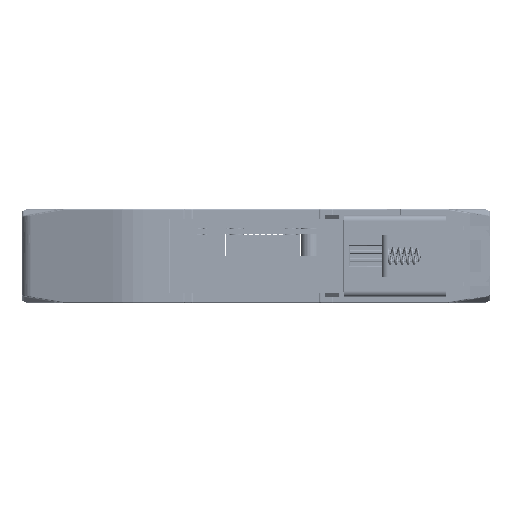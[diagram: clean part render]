
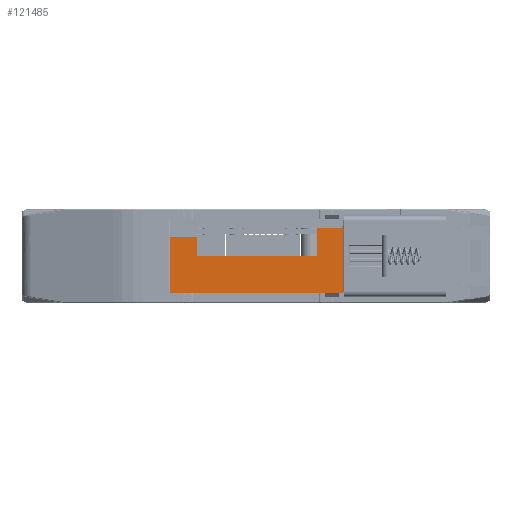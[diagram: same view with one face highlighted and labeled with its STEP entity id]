
A CAD part, front view. The second image highlights one B-rep face of the part: STEP entity #121485.
In plain terms, the highlighted planar face has unit normal (0, -1, 0).
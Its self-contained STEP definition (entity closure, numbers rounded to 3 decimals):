
#11087=DIRECTION('',(-1.,0.,0.));
#11088=VECTOR('',#11087,5.9);
#11089=CARTESIAN_POINT('',(-12.5,-83.9,-4.8));
#11090=LINE('',#11089,#11088);
#36700=DIRECTION('',(0.,0.,-1.));
#36701=VECTOR('',#36700,15.65);
#36702=CARTESIAN_POINT('',(18.6,-83.9,-1.15));
#36703=LINE('',#36702,#36701);
#36704=DIRECTION('',(0.,0.,-1.));
#36705=VECTOR('',#36704,12.);
#36706=CARTESIAN_POINT('',(-18.4,-83.9,-4.8));
#36707=LINE('',#36706,#36705);
#36708=DIRECTION('',(0.,0.,-1.));
#36709=VECTOR('',#36708,4.);
#36710=CARTESIAN_POINT('',(-12.5,-83.9,-4.8));
#36711=LINE('',#36710,#36709);
#36712=DIRECTION('',(1.,0.,0.));
#36713=VECTOR('',#36712,25.5);
#36714=CARTESIAN_POINT('',(-12.5,-83.9,-8.8));
#36715=LINE('',#36714,#36713);
#36716=DIRECTION('',(0.,0.,1.));
#36717=VECTOR('',#36716,5.95);
#36718=CARTESIAN_POINT('',(13.,-83.9,-8.8));
#36719=LINE('',#36718,#36717);
#36724=DIRECTION('',(1.,0.,0.));
#36725=VECTOR('',#36724,5.451);
#36726=CARTESIAN_POINT('',(13.,-83.9,-2.85));
#36727=LINE('',#36726,#36725);
#36736=DIRECTION('',(-0.087,0.,-0.996));
#36737=VECTOR('',#36736,1.706);
#36738=CARTESIAN_POINT('',(18.6,-83.9,-1.15));
#36739=LINE('',#36738,#36737);
#37860=DIRECTION('',(-1.,0.,0.));
#37861=VECTOR('',#37860,37.);
#37862=CARTESIAN_POINT('',(18.6,-83.9,-16.8));
#37863=LINE('',#37862,#37861);
#67320=CARTESIAN_POINT('',(18.6,-83.9,-16.8));
#67321=VERTEX_POINT('',#67320);
#67492=CARTESIAN_POINT('',(-12.5,-83.9,-4.8));
#67493=VERTEX_POINT('',#67492);
#67494=CARTESIAN_POINT('',(-12.5,-83.9,-8.8));
#67495=CARTESIAN_POINT('',(13.,-83.9,-8.8));
#67496=VERTEX_POINT('',#67494);
#67497=VERTEX_POINT('',#67495);
#75019=CARTESIAN_POINT('',(18.6,-83.9,-1.15));
#75020=VERTEX_POINT('',#75019);
#75040=CARTESIAN_POINT('',(13.,-83.9,-2.85));
#75042=VERTEX_POINT('',#75040);
#75043=CARTESIAN_POINT('',(18.451,-83.9,-2.85));
#75045=VERTEX_POINT('',#75043);
#75047=CARTESIAN_POINT('',(-18.4,-83.9,-16.8));
#75049=VERTEX_POINT('',#75047);
#75053=CARTESIAN_POINT('',(-18.4,-83.9,-4.8));
#75054=VERTEX_POINT('',#75053);
#121462=CARTESIAN_POINT('',(18.6,-83.9,-4.8));
#121463=DIRECTION('',(0.,1.,0.));
#121464=DIRECTION('',(-1.,0.,0.));
#121465=AXIS2_PLACEMENT_3D('',#121462,#121463,#121464);
#121466=PLANE('',#121465);
#121468=ORIENTED_EDGE('',*,*,#121467,.T.);
#121470=ORIENTED_EDGE('',*,*,#121469,.F.);
#121471=ORIENTED_EDGE('',*,*,#121448,.T.);
#121473=ORIENTED_EDGE('',*,*,#121472,.T.);
#121475=ORIENTED_EDGE('',*,*,#121474,.F.);
#121476=ORIENTED_EDGE('',*,*,#86436,.F.);
#121478=ORIENTED_EDGE('',*,*,#121477,.T.);
#121480=ORIENTED_EDGE('',*,*,#121479,.T.);
#121482=ORIENTED_EDGE('',*,*,#121481,.T.);
#121483=EDGE_LOOP('',(#121468,#121470,#121471,#121473,#121475,#121476,#121478,
#121480,#121482));
#121484=FACE_OUTER_BOUND('',#121483,.F.);
#121485=ADVANCED_FACE('',(#121484),#121466,.F.);
#86436=EDGE_CURVE('',#67493,#75054,#11090,.T.);
#121448=EDGE_CURVE('',#75020,#67321,#36703,.T.);
#121467=EDGE_CURVE('',#75042,#75045,#36727,.T.);
#121469=EDGE_CURVE('',#75020,#75045,#36739,.T.);
#121472=EDGE_CURVE('',#67321,#75049,#37863,.T.);
#121474=EDGE_CURVE('',#75054,#75049,#36707,.T.);
#121477=EDGE_CURVE('',#67493,#67496,#36711,.T.);
#121479=EDGE_CURVE('',#67496,#67497,#36715,.T.);
#121481=EDGE_CURVE('',#67497,#75042,#36719,.T.);
